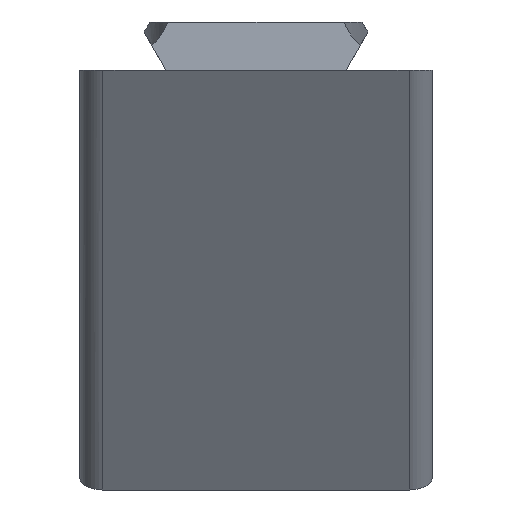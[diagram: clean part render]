
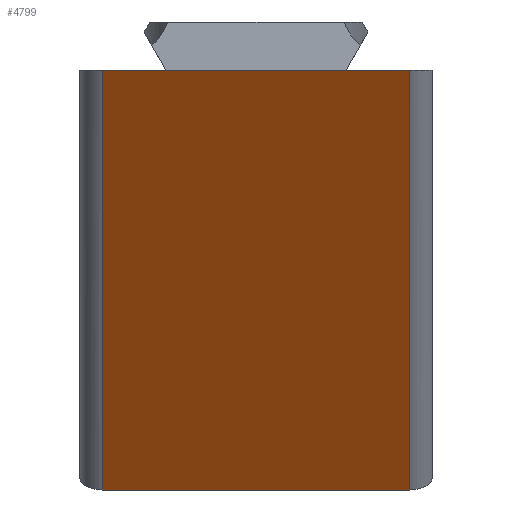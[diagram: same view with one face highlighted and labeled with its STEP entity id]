
A CAD part, left-side view. The second image highlights one B-rep face of the part: STEP entity #4799.
In plain terms, the highlighted planar face has unit normal (-0.819, 0, -0.574).
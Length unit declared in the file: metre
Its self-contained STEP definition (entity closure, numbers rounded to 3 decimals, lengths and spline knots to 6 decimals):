
#733=ORIENTED_EDGE('',*,*,#1943,.T.);
#734=ORIENTED_EDGE('',*,*,#2169,.T.);
#735=ORIENTED_EDGE('',*,*,#1895,.F.);
#736=ORIENTED_EDGE('',*,*,#2170,.T.);
#737=ORIENTED_EDGE('',*,*,#1959,.T.);
#738=ORIENTED_EDGE('',*,*,#2164,.T.);
#1895=EDGE_CURVE('',#2629,#2630,#3118,.T.);
#1943=EDGE_CURVE('',#2678,#2677,#3142,.T.);
#1959=EDGE_CURVE('',#2694,#2693,#3152,.T.);
#2164=EDGE_CURVE('',#2693,#2678,#3248,.T.);
#2169=EDGE_CURVE('',#2677,#2630,#3249,.T.);
#2170=EDGE_CURVE('',#2629,#2694,#3250,.F.);
#2629=VERTEX_POINT('',#6467);
#2630=VERTEX_POINT('',#6469);
#2677=VERTEX_POINT('',#6567);
#2678=VERTEX_POINT('',#6569);
#2693=VERTEX_POINT('',#6599);
#2694=VERTEX_POINT('',#6601);
#3118=LINE('',#6468,#3578);
#3142=LINE('',#6568,#3602);
#3152=LINE('',#6600,#3612);
#3248=LINE('',#7153,#3708);
#3249=LINE('',#7164,#3709);
#3250=LINE('',#7165,#3710);
#3578=VECTOR('',#5386,1.);
#3602=VECTOR('',#5466,1.);
#3612=VECTOR('',#5488,1.);
#3708=VECTOR('',#5680,1.);
#3709=VECTOR('',#5697,1.);
#3710=VECTOR('',#5698,1.);
#4077=EDGE_LOOP('',(#733,#734,#735,#736,#737,#738));
#4381=FACE_BOUND('',#4077,.T.);
#4658=PLANE('',#5154);
#4799=ADVANCED_FACE('',(#4381),#4658,.F.);
#5154=AXIS2_PLACEMENT_3D('',#7163,#5695,#5696);
#5386=DIRECTION('',(0.,1.,0.));
#5466=DIRECTION('',(0.,1.,0.));
#5488=DIRECTION('',(0.,1.,0.));
#5680=DIRECTION('',(0.,1.,0.));
#5695=DIRECTION('',(0.819,0.,0.574));
#5696=DIRECTION('',(0.574,0.,-0.819));
#5697=DIRECTION('',(0.574,0.,-0.819));
#5698=DIRECTION('',(0.574,0.,-0.819));
#6467=CARTESIAN_POINT('',(0.024957,-0.013,-0.035642));
#6468=CARTESIAN_POINT('',(0.024957,-0.015,-0.035642));
#6469=CARTESIAN_POINT('',(0.024957,0.013,-0.035642));
#6567=CARTESIAN_POINT('',(0.,0.013,0.));
#6568=CARTESIAN_POINT('',(0.,-0.015,0.));
#6569=CARTESIAN_POINT('',(0.,0.007695,0.));
#6599=CARTESIAN_POINT('',(0.,-0.007695,0.));
#6600=CARTESIAN_POINT('',(0.,-0.015,0.));
#6601=CARTESIAN_POINT('',(0.,-0.013,0.));
#7153=CARTESIAN_POINT('',(0.,0.,0.));
#7163=CARTESIAN_POINT('',(0.012479,-0.015,-0.017821));
#7164=CARTESIAN_POINT('',(0.012479,0.013,-0.017821));
#7165=CARTESIAN_POINT('',(0.,-0.013,0.));
